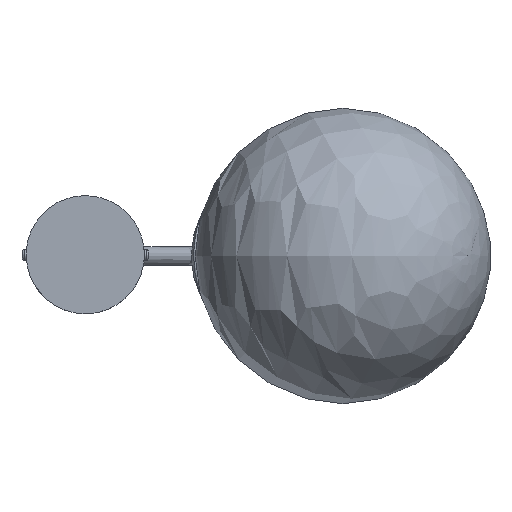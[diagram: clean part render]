
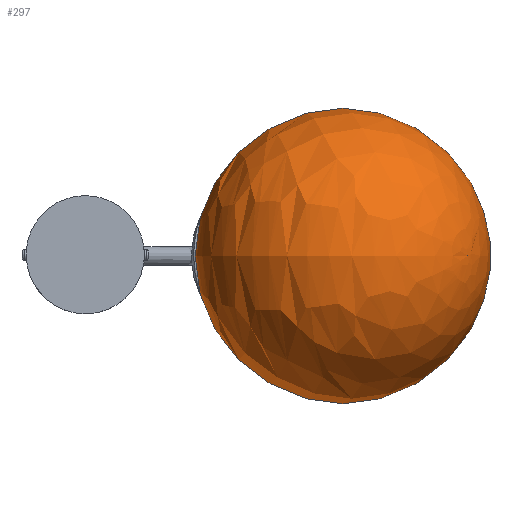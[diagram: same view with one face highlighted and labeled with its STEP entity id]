
A CAD part, top view. The second image highlights one B-rep face of the part: STEP entity #297.
In plain terms, the highlighted free-form (B-spline) face has degree [2, 2] with [9, 5] control points.
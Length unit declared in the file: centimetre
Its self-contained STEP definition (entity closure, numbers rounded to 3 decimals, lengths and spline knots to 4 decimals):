
#236 = CARTESIAN_POINT ('', (18.2505, 0., 76.497));
#237 = VERTEX_POINT ('', #236);
#238 = CARTESIAN_POINT ('', (1.3627, 0., 65.7825));
#239 = VERTEX_POINT ('', #238);
#240 = CARTESIAN_POINT ('', (18.2505, 0., 76.497));
#241 = CARTESIAN_POINT ('', (12.8933, 0., 84.941));
#242 = CARTESIAN_POINT ('', (4.4494, 0., 79.5837));
#243 = CARTESIAN_POINT ('', (-3.9946, 0., 74.2264));
#244 = CARTESIAN_POINT ('', (1.3627, 0., 65.7825));
#245 = (
   BOUNDED_CURVE ()
   B_SPLINE_CURVE (2, (#240, #241, #242, #243, #244), .UNSPECIFIED., .F., .U.)
   B_SPLINE_CURVE_WITH_KNOTS ((3, 2, 3), (0., 0.5, 1.), .UNSPECIFIED.)
   CURVE ()
   GEOMETRIC_REPRESENTATION_ITEM ()
   RATIONAL_B_SPLINE_CURVE ((1., 0.707, 1., 0.707, 1.))
   REPRESENTATION_ITEM ('')
);
#246 = EDGE_CURVE ('', #237, #239, #245, .T.);
#247 = ORIENTED_EDGE ('', *, *, #246, .F.);
#248 = ORIENTED_EDGE ('', *, *, #246, .T.);
#249 = EDGE_LOOP ('', (#247, #248));
#250 = FACE_OUTER_BOUND ('', #249, .T.);
#251 = CARTESIAN_POINT ('', (18.2505, 0., 76.497));
#252 = CARTESIAN_POINT ('', (12.8933, 0., 84.941));
#253 = CARTESIAN_POINT ('', (4.4494, 0., 79.5837));
#254 = CARTESIAN_POINT ('', (-3.9946, 0., 74.2264));
#255 = CARTESIAN_POINT ('', (1.3627, 0., 65.7825));
#256 = CARTESIAN_POINT ('', (18.2505, 0., 76.497));
#257 = CARTESIAN_POINT ('', (12.8933, 10., 84.941));
#258 = CARTESIAN_POINT ('', (4.4494, 10., 79.5837));
#259 = CARTESIAN_POINT ('', (-3.9946, 10., 74.2264));
#260 = CARTESIAN_POINT ('', (1.3627, 0., 65.7825));
#261 = CARTESIAN_POINT ('', (18.2505, 0., 76.497));
#262 = CARTESIAN_POINT ('', (18.2505, 10., 76.497));
#263 = CARTESIAN_POINT ('', (9.8066, 10., 71.1398));
#264 = CARTESIAN_POINT ('', (1.3627, 10., 65.7825));
#265 = CARTESIAN_POINT ('', (1.3627, 0., 65.7825));
#266 = CARTESIAN_POINT ('', (18.2505, 0., 76.497));
#267 = CARTESIAN_POINT ('', (23.6078, 10., 68.0531));
#268 = CARTESIAN_POINT ('', (15.1639, 10., 62.6959));
#269 = CARTESIAN_POINT ('', (6.72, 10., 57.3386));
#270 = CARTESIAN_POINT ('', (1.3627, 0., 65.7825));
#271 = CARTESIAN_POINT ('', (18.2505, 0., 76.497));
#272 = CARTESIAN_POINT ('', (23.6078, 0., 68.0531));
#273 = CARTESIAN_POINT ('', (15.1639, 0., 62.6959));
#274 = CARTESIAN_POINT ('', (6.72, 0., 57.3386));
#275 = CARTESIAN_POINT ('', (1.3627, 0., 65.7825));
#276 = CARTESIAN_POINT ('', (18.2505, 0., 76.497));
#277 = CARTESIAN_POINT ('', (23.6078, -10., 68.0531));
#278 = CARTESIAN_POINT ('', (15.1639, -10., 62.6959));
#279 = CARTESIAN_POINT ('', (6.72, -10., 57.3386));
#280 = CARTESIAN_POINT ('', (1.3627, 0., 65.7825));
#281 = CARTESIAN_POINT ('', (18.2505, 0., 76.497));
#282 = CARTESIAN_POINT ('', (18.2505, -10., 76.497));
#283 = CARTESIAN_POINT ('', (9.8066, -10., 71.1398));
#284 = CARTESIAN_POINT ('', (1.3627, -10., 65.7825));
#285 = CARTESIAN_POINT ('', (1.3627, 0., 65.7825));
#286 = CARTESIAN_POINT ('', (18.2505, 0., 76.497));
#287 = CARTESIAN_POINT ('', (12.8933, -10., 84.941));
#288 = CARTESIAN_POINT ('', (4.4494, -10., 79.5837));
#289 = CARTESIAN_POINT ('', (-3.9946, -10., 74.2264));
#290 = CARTESIAN_POINT ('', (1.3627, 0., 65.7825));
#291 = CARTESIAN_POINT ('', (18.2505, 0., 76.497));
#292 = CARTESIAN_POINT ('', (12.8933, 0., 84.941));
#293 = CARTESIAN_POINT ('', (4.4494, 0., 79.5837));
#294 = CARTESIAN_POINT ('', (-3.9946, 0., 74.2264));
#295 = CARTESIAN_POINT ('', (1.3627, 0., 65.7825));
#296 = (
   BOUNDED_SURFACE ()
   B_SPLINE_SURFACE (2, 2, ((#251, #252, #253, #254, #255), (#256, #257, #258, #259, #260), (#261, #262, #263, #264, #265), (#266, #267, #268, #269, #270), (#271, #272, #273, #274, #275), (#276, #277, #278, #279, #280), (#281, #282, #283, #284, #285), (#286, #287, #288, #289, #290), (#291, #292, #293, #294, #295)), .UNSPECIFIED., .T., .F., .U.)
   B_SPLINE_SURFACE_WITH_KNOTS ((3, 2, 2, 2, 3), (3, 2, 3), (0., 0.25, 0.5, 0.75, 1.), (0., 0.5, 1.), .UNSPECIFIED.)
   SURFACE ()
   GEOMETRIC_REPRESENTATION_ITEM ()
   RATIONAL_B_SPLINE_SURFACE (((1., 0.707, 1., 0.707, 1.), (0.707, 0.5, 0.707, 0.5, 0.707), (1., 0.707, 1., 0.707, 1.), (0.707, 0.5, 0.707, 0.5, 0.707), (1., 0.707, 1., 0.707, 1.), (0.707, 0.5, 0.707, 0.5, 0.707), (1., 0.707, 1., 0.707, 1.), (0.707, 0.5, 0.707, 0.5, 0.707), (1., 0.707, 1., 0.707, 1.)))
   REPRESENTATION_ITEM ('')
);
#297 = ADVANCED_FACE ('', (#250), #296, .T.);
